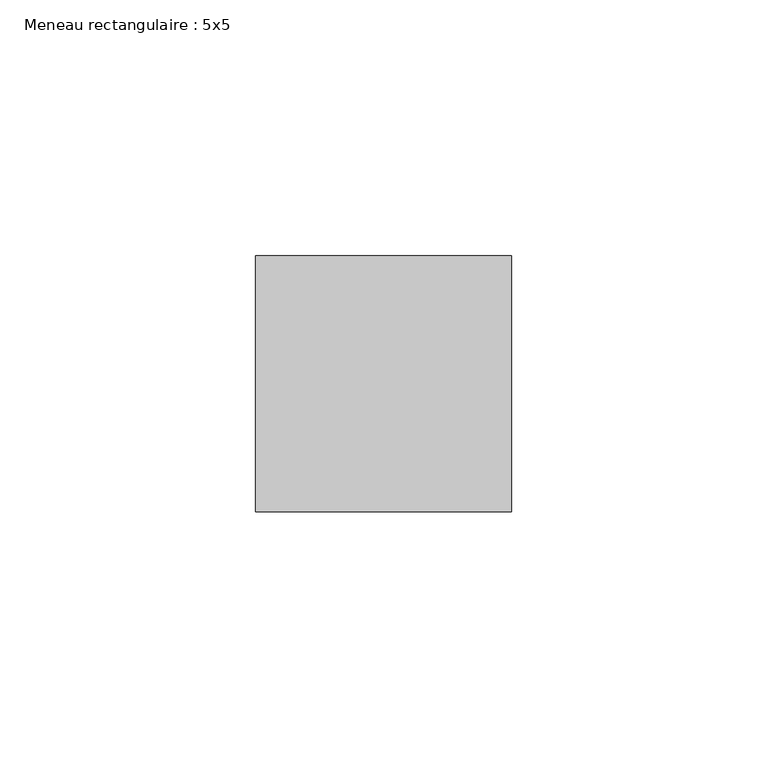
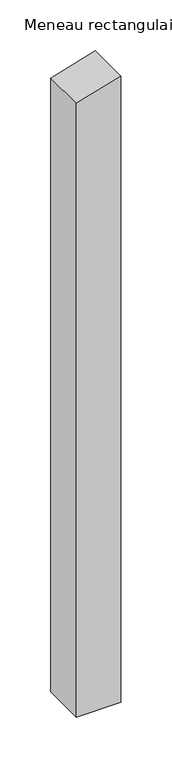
"""IFC4 building model written with IfcOpenShell, lengths in millimetres: member geometry, Meneau rectangulaire : 5x5."""

from ifc_helpers import new_model, si_unit, frame, origin, place, context, project, spatial, polyline, outline, extrude, source, transform, mapped, element, save


def meneau_rectangulaire_5x5_316943d4(model_context):
    return source(origin(), model_context, "Body", "SweptSolid", [
        extrude(outline(polyline([(0.0, 0.0), (-15.0, -50.0), (-749.7893734, -50.0), (-749.7893734, 0.0), (0.0, 0.0)])), frame((0.0, -25.0, 0.0), z_axis=(0.0, 1.0, 0.0), x_axis=(0.0, 0.0, 1.0)), (0.0, 0.0, 1.0), 50.0),
    ])


if __name__ == "__main__":
    model = new_model("IFC4")
    model_context = context("Model", 3, world=origin())
    ifc_project = project(units=[si_unit("LENGTHUNIT", "METRE", prefix="MILLI")], contexts=[model_context])
    site = spatial("IfcSite", under=ifc_project)
    building = spatial("IfcBuilding", under=site)
    placement = place(None, origin())
    meneau_rectangulaire_5x5_shape = meneau_rectangulaire_5x5_316943d4(model_context)
    element("IfcMember", 1, ObjectType="Meneau rectangulaire : 5x5", at=placement, inside=building, context=model_context, shape_type="MappedRepresentation", body=[
        mapped(meneau_rectangulaire_5x5_shape, transform((0.0, 0.0, 0.0), x_axis=(1.0, 0.0, 0.0), y_axis=(0.0, 1.0, 0.0), z_axis=(0.0, 0.0, 1.0))),
    ])
    save(model, "model.ifc")
